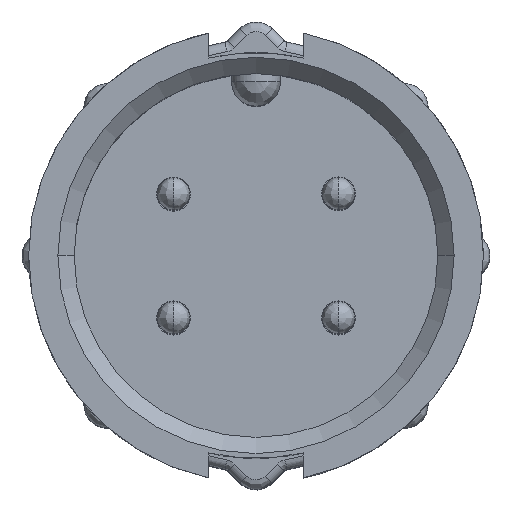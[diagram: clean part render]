
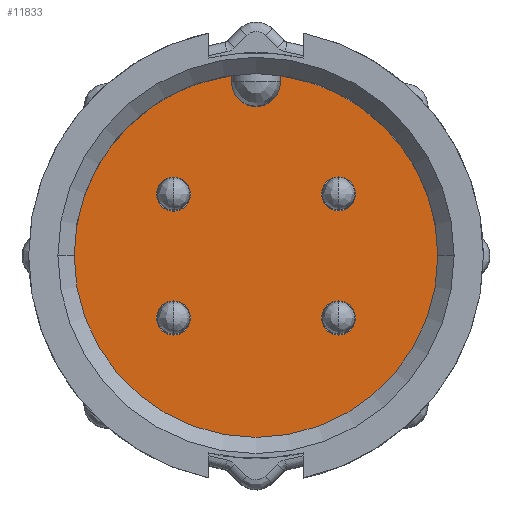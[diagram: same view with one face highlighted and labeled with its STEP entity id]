
A CAD part, top view. The second image highlights one B-rep face of the part: STEP entity #11833.
In plain terms, the highlighted planar face has unit normal (0, 0, 1).
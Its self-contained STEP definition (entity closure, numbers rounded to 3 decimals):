
#176 = CIRCLE ( 'NONE', #1972, 5.6 ) ;
#290 = AXIS2_PLACEMENT_3D ( 'NONE', #3357, #14156, #15334 ) ;
#346 = CARTESIAN_POINT ( 'NONE',  ( 2.015, -1.91, -9. ) ) ;
#388 = AXIS2_PLACEMENT_3D ( 'NONE', #6602, #480, #12708 ) ;
#480 = DIRECTION ( 'NONE',  ( 0., 0., 1. ) ) ;
#675 = DIRECTION ( 'NONE',  ( 0., 0., 1. ) ) ;
#914 = CIRCLE ( 'NONE', #4733, 5.6 ) ;
#991 = EDGE_LOOP ( 'NONE', ( #3104, #5107 ) ) ;
#1129 = DIRECTION ( 'NONE',  ( 1., 0., 0. ) ) ;
#1188 = LINE ( 'NONE', #2473, #8634 ) ;
#1315 = EDGE_CURVE ( 'NONE', #11985, #2362, #14635, .T. ) ;
#1319 = DIRECTION ( 'NONE',  ( 1., 0., 0. ) ) ;
#1398 = AXIS2_PLACEMENT_3D ( 'NONE', #2125, #6968, #3395 ) ;
#1409 = AXIS2_PLACEMENT_3D ( 'NONE', #14585, #3723, #1319 ) ;
#1429 = VERTEX_POINT ( 'NONE', #6277 ) ;
#1493 = CIRCLE ( 'NONE', #5572, 0.525 ) ;
#1720 = DIRECTION ( 'NONE',  ( 1., 0., 0. ) ) ;
#1926 = CIRCLE ( 'NONE', #3701, 0.525 ) ;
#1945 = ORIENTED_EDGE ( 'NONE', *, *, #13280, .F. ) ;
#1972 = AXIS2_PLACEMENT_3D ( 'NONE', #12798, #2002, #3424 ) ;
#2002 = DIRECTION ( 'NONE',  ( 0., 0., 1. ) ) ;
#2074 = VERTEX_POINT ( 'NONE', #14336 ) ;
#2125 = CARTESIAN_POINT ( 'NONE',  ( -2.54, -1.91, -9. ) ) ;
#2191 = DIRECTION ( 'NONE',  ( 1., 0., 0. ) ) ;
#2306 = ORIENTED_EDGE ( 'NONE', *, *, #14991, .T. ) ;
#2362 = VERTEX_POINT ( 'NONE', #4182 ) ;
#2473 = CARTESIAN_POINT ( 'NONE',  ( 0.75, -0.028, -9. ) ) ;
#2918 = CARTESIAN_POINT ( 'NONE',  ( 2.54, 1.91, -9. ) ) ;
#3004 = VERTEX_POINT ( 'NONE', #12222 ) ;
#3104 = ORIENTED_EDGE ( 'NONE', *, *, #9065, .F. ) ;
#3145 = ORIENTED_EDGE ( 'NONE', *, *, #3680, .F. ) ;
#3280 = DIRECTION ( 'NONE',  ( 1., 0., 0. ) ) ;
#3357 = CARTESIAN_POINT ( 'NONE',  ( 0., 5.35, -9. ) ) ;
#3395 = DIRECTION ( 'NONE',  ( 1., 0., 0. ) ) ;
#3415 = EDGE_CURVE ( 'NONE', #13672, #13685, #6399, .T. ) ;
#3424 = DIRECTION ( 'NONE',  ( 1., 0., 0. ) ) ;
#3508 = CARTESIAN_POINT ( 'NONE',  ( 2.54, 1.91, -9. ) ) ;
#3680 = EDGE_CURVE ( 'NONE', #2362, #13156, #8933, .T. ) ;
#3689 = CARTESIAN_POINT ( 'NONE',  ( -0.75, -0.028, -9. ) ) ;
#3701 = AXIS2_PLACEMENT_3D ( 'NONE', #3508, #9233, #3280 ) ;
#3723 = DIRECTION ( 'NONE',  ( 0., 0., 1. ) ) ;
#3784 = EDGE_LOOP ( 'NONE', ( #8235, #9414 ) ) ;
#3910 = ORIENTED_EDGE ( 'NONE', *, *, #10401, .T. ) ;
#4008 = EDGE_CURVE ( 'NONE', #13156, #10377, #1188, .T. ) ;
#4009 = ORIENTED_EDGE ( 'NONE', *, *, #8421, .F. ) ;
#4182 = CARTESIAN_POINT ( 'NONE',  ( -0.75, 5.35, -9. ) ) ;
#4415 = CARTESIAN_POINT ( 'NONE',  ( -0.75, 5.55, -9. ) ) ;
#4733 = AXIS2_PLACEMENT_3D ( 'NONE', #6990, #13246, #9522 ) ;
#4815 = FACE_BOUND ( 'NONE', #15108, .T. ) ;
#5048 = CARTESIAN_POINT ( 'NONE',  ( 0.75, 5.35, -9. ) ) ;
#5072 = CARTESIAN_POINT ( 'NONE',  ( 3.065, -1.91, -9. ) ) ;
#5107 = ORIENTED_EDGE ( 'NONE', *, *, #13035, .F. ) ;
#5166 = VERTEX_POINT ( 'NONE', #8051 ) ;
#5172 = AXIS2_PLACEMENT_3D ( 'NONE', #7900, #675, #12823 ) ;
#5572 = AXIS2_PLACEMENT_3D ( 'NONE', #13470, #12042, #12195 ) ;
#5687 = DIRECTION ( 'NONE',  ( 0., 0., 1. ) ) ;
#5845 = FACE_BOUND ( 'NONE', #3784, .T. ) ;
#5922 = DIRECTION ( 'NONE',  ( 0., -1., 0. ) ) ;
#5996 = CARTESIAN_POINT ( 'NONE',  ( -5.6, 0., -9. ) ) ;
#6277 = CARTESIAN_POINT ( 'NONE',  ( 2.015, 1.91, -9. ) ) ;
#6399 = CIRCLE ( 'NONE', #9938, 0.525 ) ;
#6602 = CARTESIAN_POINT ( 'NONE',  ( -2.54, 1.905, -9. ) ) ;
#6927 = EDGE_CURVE ( 'NONE', #1429, #5166, #1926, .T. ) ;
#6968 = DIRECTION ( 'NONE',  ( 0., 0., 1. ) ) ;
#6990 = CARTESIAN_POINT ( 'NONE',  ( 0., 0., -9. ) ) ;
#7642 = EDGE_CURVE ( 'NONE', #3004, #10377, #8267, .T. ) ;
#7671 = DIRECTION ( 'NONE',  ( 1., 0., 0. ) ) ;
#7695 = AXIS2_PLACEMENT_3D ( 'NONE', #11334, #11409, #1720 ) ;
#7900 = CARTESIAN_POINT ( 'NONE',  ( 2.54, -1.91, -9. ) ) ;
#8051 = CARTESIAN_POINT ( 'NONE',  ( 3.065, 1.91, -9. ) ) ;
#8216 = FACE_BOUND ( 'NONE', #10682, .T. ) ;
#8235 = ORIENTED_EDGE ( 'NONE', *, *, #11040, .F. ) ;
#8267 = CIRCLE ( 'NONE', #1409, 5.6 ) ;
#8421 = EDGE_CURVE ( 'NONE', #13685, #13672, #12331, .T. ) ;
#8634 = VECTOR ( 'NONE', #11035, 1000. ) ;
#8933 = CIRCLE ( 'NONE', #290, 0.75 ) ;
#8946 = DIRECTION ( 'NONE',  ( 0., 0., 1. ) ) ;
#9002 = CARTESIAN_POINT ( 'NONE',  ( 0.75, 5.55, -9. ) ) ;
#9065 = EDGE_CURVE ( 'NONE', #2074, #9490, #14096, .T. ) ;
#9233 = DIRECTION ( 'NONE',  ( 0., 0., 1. ) ) ;
#9414 = ORIENTED_EDGE ( 'NONE', *, *, #6927, .F. ) ;
#9481 = CARTESIAN_POINT ( 'NONE',  ( -2.54, 1.905, -9. ) ) ;
#9490 = VERTEX_POINT ( 'NONE', #10521 ) ;
#9522 = DIRECTION ( 'NONE',  ( 1., 0., 0. ) ) ;
#9639 = FACE_OUTER_BOUND ( 'NONE', #14932, .T. ) ;
#9938 = AXIS2_PLACEMENT_3D ( 'NONE', #9481, #5687, #1129 ) ;
#10236 = ORIENTED_EDGE ( 'NONE', *, *, #7642, .T. ) ;
#10377 = VERTEX_POINT ( 'NONE', #9002 ) ;
#10401 = EDGE_CURVE ( 'NONE', #11122, #3004, #914, .T. ) ;
#10521 = CARTESIAN_POINT ( 'NONE',  ( -3.065, -1.91, -9. ) ) ;
#10675 = CARTESIAN_POINT ( 'NONE',  ( -5.824, -5.828, -9. ) ) ;
#10682 = EDGE_LOOP ( 'NONE', ( #4009, #13194 ) ) ;
#10742 = ORIENTED_EDGE ( 'NONE', *, *, #1315, .F. ) ;
#10753 = DIRECTION ( 'NONE',  ( 0., 0., 1. ) ) ;
#11035 = DIRECTION ( 'NONE',  ( 0., 1., 0. ) ) ;
#11040 = EDGE_CURVE ( 'NONE', #5166, #1429, #12589, .T. ) ;
#11056 = CARTESIAN_POINT ( 'NONE',  ( -3.065, 1.905, -9. ) ) ;
#11122 = VERTEX_POINT ( 'NONE', #5996 ) ;
#11334 = CARTESIAN_POINT ( 'NONE',  ( -2.54, -1.91, -9. ) ) ;
#11409 = DIRECTION ( 'NONE',  ( 0., 0., 1. ) ) ;
#11466 = ORIENTED_EDGE ( 'NONE', *, *, #15449, .F. ) ;
#11492 = AXIS2_PLACEMENT_3D ( 'NONE', #10675, #10753, #2191 ) ;
#11505 = ORIENTED_EDGE ( 'NONE', *, *, #4008, .F. ) ;
#11833 = ADVANCED_FACE ( 'NONE', ( #5845, #4815, #11941, #8216, #9639 ), #14480, .T. ) ;
#11923 = VERTEX_POINT ( 'NONE', #346 ) ;
#11941 = FACE_BOUND ( 'NONE', #991, .T. ) ;
#11985 = VERTEX_POINT ( 'NONE', #4415 ) ;
#12004 = CIRCLE ( 'NONE', #5172, 0.525 ) ;
#12042 = DIRECTION ( 'NONE',  ( 0., 0., 1. ) ) ;
#12195 = DIRECTION ( 'NONE',  ( 1., 0., 0. ) ) ;
#12222 = CARTESIAN_POINT ( 'NONE',  ( 5.6, 0., -9. ) ) ;
#12251 = CIRCLE ( 'NONE', #7695, 0.525 ) ;
#12331 = CIRCLE ( 'NONE', #388, 0.525 ) ;
#12455 = VERTEX_POINT ( 'NONE', #5072 ) ;
#12589 = CIRCLE ( 'NONE', #15382, 0.525 ) ;
#12708 = DIRECTION ( 'NONE',  ( 1., 0., 0. ) ) ;
#12798 = CARTESIAN_POINT ( 'NONE',  ( 0., 0., -9. ) ) ;
#12823 = DIRECTION ( 'NONE',  ( 1., 0., 0. ) ) ;
#13035 = EDGE_CURVE ( 'NONE', #9490, #2074, #12251, .T. ) ;
#13156 = VERTEX_POINT ( 'NONE', #5048 ) ;
#13194 = ORIENTED_EDGE ( 'NONE', *, *, #3415, .F. ) ;
#13246 = DIRECTION ( 'NONE',  ( 0., 0., 1. ) ) ;
#13280 = EDGE_CURVE ( 'NONE', #11923, #12455, #12004, .T. ) ;
#13442 = VECTOR ( 'NONE', #5922, 1000. ) ;
#13470 = CARTESIAN_POINT ( 'NONE',  ( 2.54, -1.91, -9. ) ) ;
#13519 = CARTESIAN_POINT ( 'NONE',  ( -2.015, 1.905, -9. ) ) ;
#13672 = VERTEX_POINT ( 'NONE', #11056 ) ;
#13685 = VERTEX_POINT ( 'NONE', #13519 ) ;
#14096 = CIRCLE ( 'NONE', #1398, 0.525 ) ;
#14156 = DIRECTION ( 'NONE',  ( 0., 0., 1. ) ) ;
#14336 = CARTESIAN_POINT ( 'NONE',  ( -2.015, -1.91, -9. ) ) ;
#14480 = PLANE ( 'NONE',  #11492 ) ;
#14585 = CARTESIAN_POINT ( 'NONE',  ( 0., 0., -9. ) ) ;
#14635 = LINE ( 'NONE', #3689, #13442 ) ;
#14932 = EDGE_LOOP ( 'NONE', ( #2306, #3910, #10236, #11505, #3145, #10742 ) ) ;
#14991 = EDGE_CURVE ( 'NONE', #11985, #11122, #176, .T. ) ;
#15108 = EDGE_LOOP ( 'NONE', ( #11466, #1945 ) ) ;
#15334 = DIRECTION ( 'NONE',  ( 1., 0., 0. ) ) ;
#15382 = AXIS2_PLACEMENT_3D ( 'NONE', #2918, #8946, #7671 ) ;
#15449 = EDGE_CURVE ( 'NONE', #12455, #11923, #1493, .T. ) ;
